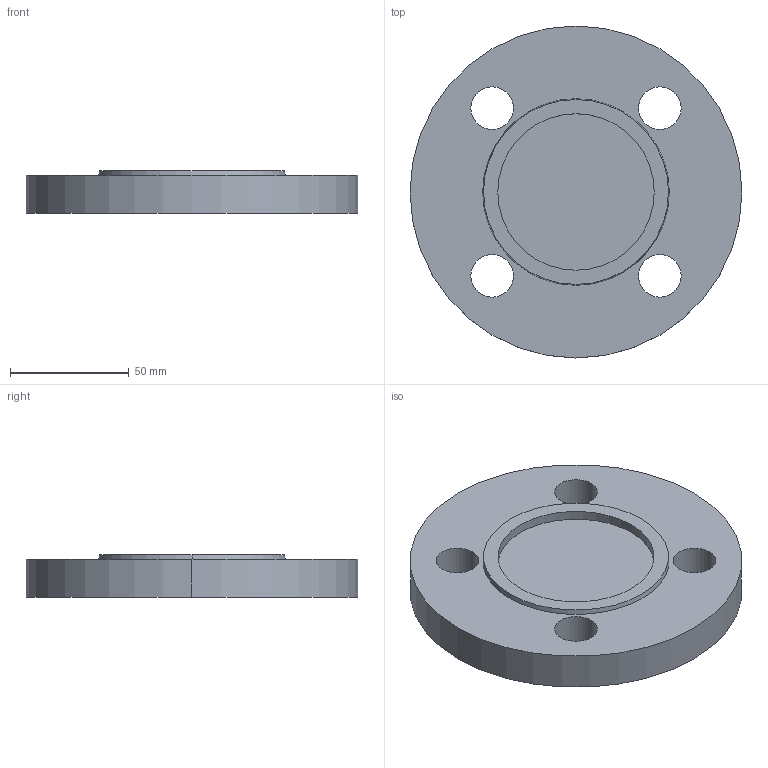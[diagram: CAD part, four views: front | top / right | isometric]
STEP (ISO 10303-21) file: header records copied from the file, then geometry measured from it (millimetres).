
FILE_DESCRIPTION (( 'STEP AP214' ), '1' );
FILE_NAME ('PN40 DN32 Type 05 - Type F Face.STEP', '2018-12-30T00:01:52', ( '' ), ( '' ), 'SwSTEP 2.0', 'SolidWorks 2019', '' );
FILE_SCHEMA (( 'AUTOMOTIVE_DESIGN' ));
Length unit declared in the file: millimetre
Products named in the file (1): PN40 DN32 Type 05 - Type F Face
Bounding box: 140 x 140 x 18 mm (x, y, z)
Volume: 225973.5 mm3; surface area: 40650.6 mm2
Topology: 1 solids, 1 shells, 18 faces, 42 edges, 28 vertices
Faces by surface type: cylinder 12, plane 4, cone 2
Entity records: 584 total; most frequent: DIRECTION 108, CARTESIAN_POINT 89, ORIENTED_EDGE 84, AXIS2_PLACEMENT_3D 47, EDGE_CURVE 42, CIRCLE 28, EDGE_LOOP 28, VERTEX_POINT 28
